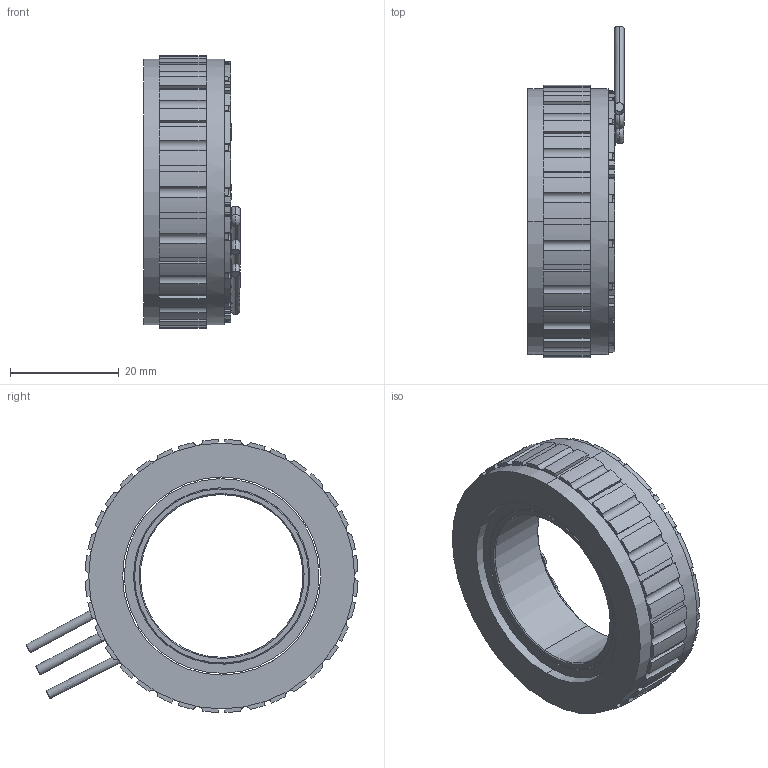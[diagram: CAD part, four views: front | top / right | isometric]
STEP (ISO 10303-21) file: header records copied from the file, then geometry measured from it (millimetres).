
FILE_DESCRIPTION (( 'STEP AP203' ), '1' );
FILE_NAME ('307091727SS 无框力矩电机 （FMK05008-0016-5030N-10DP02）-V1.2.STEP', '2025-10-21T05:17:50', ( '' ), ( '' ), 'SwSTEP 2.0', 'SolidWorks 2023', '' );
FILE_SCHEMA (( 'CONFIG_CONTROL_DESIGN' ));
Length unit declared in the file: millimetre
Products named in the file (1): 307091727SS  无框力矩电机  （FMK05008-0016-5030N-10DP02）-V1.2
Bounding box: 17.8 x 61.2 x 50.29 mm (x, y, z)
Volume: 18052.1 mm3; surface area: 17045.3 mm2
Topology: 8 solids, 13 shells, 1370 faces, 3838 edges, 2482 vertices
Faces by surface type: plane 695, cylinder 566, cone 62, torus 41, bspline 6
Entity records: 71167 total; most frequent: CARTESIAN_POINT 35209, DIRECTION 7692, ORIENTED_EDGE 7604, EDGE_CURVE 3802, AXIS2_PLACEMENT_3D 2660, VERTEX_POINT 2482, LINE 2372, VECTOR 2372
